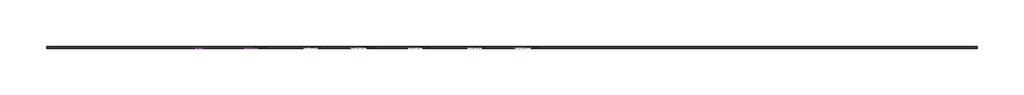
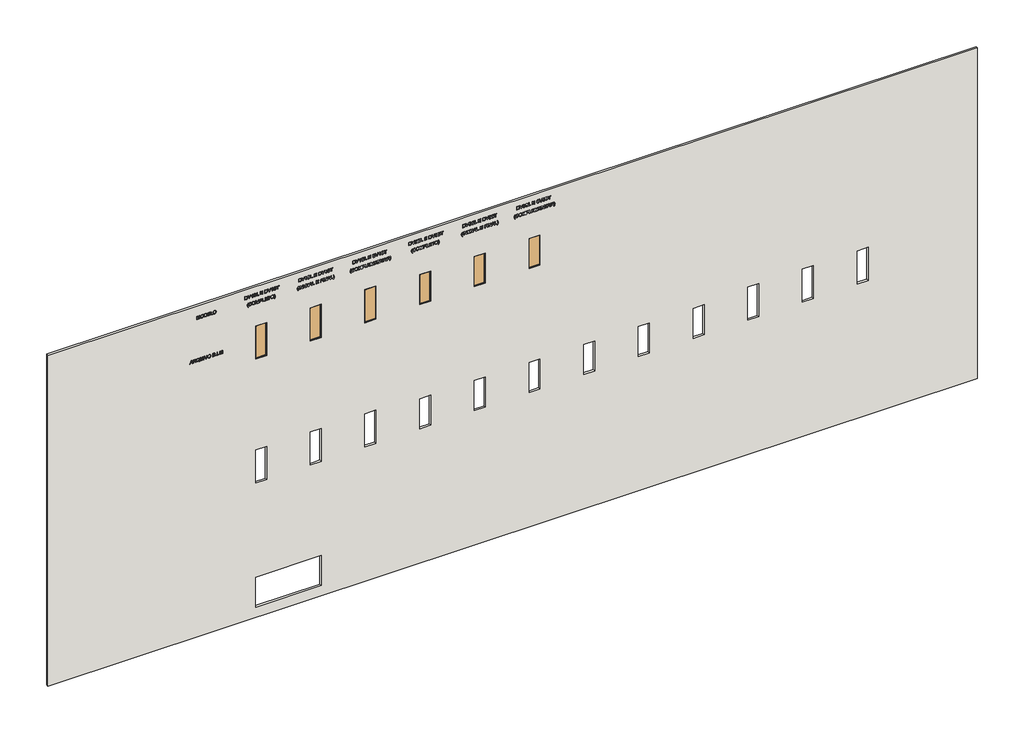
# One storey, part 1 of 4: 6 doors, 3 proxies, 1 wall.
"""IFC4 building model written with IfcOpenShell, lengths in millimetres."""

from ifc_helpers import new_model, si_unit, frame, origin, place, context, project, spatial, polyline, outline, extrude, transform, mapped, element, save
from components import door_0ff6be66, door_c2c1fa3c, door_9f8e43f1, dv8sl_8mm_laminado_6f1ccb51, dv8sl_8mm_laminado_ff16c796, dv8sl_8mm_laminado_95109997

model = new_model("IFC4")

# Units and contexts
model_context = context("Model", 3, world=origin())
ifc_project = project(units=[si_unit("LENGTHUNIT", "METRE", prefix="MILLI")], contexts=[model_context])

# Site, building, storey
site = spatial("IfcSite", under=ifc_project)
building = spatial("IfcBuilding", under=site)
storey = spatial("IfcBuildingStorey", under=building, Name="01 - Marelli - Planta Baixa - Painel Simples", Elevation=0.0)

# Proxies
placement = place(None, origin())
element("IfcBuildingElementProxy", 1, Name="300mm Arial", ObjectType="300mm Arial", at=placement, inside=storey, context=model_context, shape_type="SweptSolid", body=[
    extrude(outline(polyline([(1600.0, -7636.3146377), (1600.0, -7596.5098058), (1694.1777908, -7562.076051), (1694.1777908, -7437.9526659), (1600.0, -7403.4453347), (1600.0, -7363.6405028), (1901.3689304, -7483.9379153), (1901.3689304, -7516.0172252), (1600.0, -7636.3146377)]), holes=[polyline([(1731.8489071, -7548.243688), (1812.415064, -7518.739552), (1863.6978141, -7499.9775703), (1805.9403409, -7478.8611437), (1731.8489071, -7451.7114525), (1731.8489071, -7548.243688)])]), frame((0.0, 8778.3159498, 0.0), z_axis=(0.0, 1.0, 0.0), x_axis=(0.0, 0.0, 1.0)), (0.0, 0.0, 1.0), 10.0),
    extrude(outline(polyline([(1600.0, -7323.3942126), (1600.0, -7285.7230963), (1731.8489071, -7285.7230963), (1731.8489071, -7240.2528817), (1730.5245319, -7218.4006911), (1723.350833, -7200.484838), (1703.816299, -7180.582422), (1662.4663628, -7152.2555084), (1600.0, -7113.0392877), (1600.0, -7069.2613303), (1681.6698029, -7119.5140108), (1720.4445652, -7150.0482164), (1736.5577966, -7171.4589486), (1746.5457928, -7134.3488523), (1754.5610217, -7119.9669655), (1764.5904046, -7108.3671864), (1789.2017101, -7093.0540983), (1818.8897871, -7087.9497357), (1842.7561316, -7091.0307474), (1864.4703663, -7100.2737825), (1881.9815493, -7114.6763626), (1893.2387384, -7133.2360093), (1899.3363824, -7158.629064), (1901.3689304, -7193.5318683), (1901.3689304, -7323.3942126), (1600.0, -7323.3942126)]), holes=[polyline([(1769.5200234, -7285.7230963), (1863.6978141, -7285.7230963), (1863.6978141, -7191.9131875), (1860.4420585, -7162.1055488), (1850.6747915, -7141.5501423), (1835.8675412, -7129.6031746), (1817.4918355, -7125.620852), (1804.1837044, -7127.7085823), (1791.9240369, -7133.9717732), (1781.7888879, -7144.254075), (1774.8543123, -7158.3991377), (1770.8535956, -7177.1887106), (1769.5200234, -7201.404543), (1769.5200234, -7285.7230963)])]), frame((0.0, 8778.3159498, 0.0), z_axis=(0.0, 1.0, 0.0), x_axis=(0.0, 0.0, 1.0)), (0.0, 0.0, 1.0), 10.0),
    extrude(outline(polyline([(1636.1260119, -6795.6307023), (1659.6520655, -6777.1814202), (1686.9673037, -6764.0664271), (1718.0349382, -6756.2305406), (1752.8181808, -6753.6185784), (1794.6463636, -6757.9227978), (1831.9863862, -6770.8354558), (1863.1827793, -6791.9610794), (1886.5800742, -6820.9041954), (1901.2033836, -6855.7702114), (1906.07782, -6894.6645354), (1901.3137481, -6933.2553567), (1887.0215326, -6967.9466288), (1863.6150407, -6996.93573), (1831.5081396, -7018.4200386), (1793.055274, -7031.7189727), (1750.6108888, -7036.1519507), (1708.2032918, -7031.7097756), (1670.3022493, -7018.3832504), (1638.6460036, -6996.8161684), (1614.9727972, -6967.6523232), (1600.2115321, -6932.8322924), (1595.2911105, -6894.2966534), (1599.5585416, -6855.9449554), (1612.360835, -6821.0881364), (1591.52032, -6790.1308665), (1577.1177399, -6759.063232), (1604.7088895, -6748.9096889), (1617.5295771, -6771.2953083), (1636.1260119, -6795.6307023)]), holes=[polyline([(1686.2315397, -6883.9223811), (1657.3895912, -6893.6344658), (1650.712533, -6873.2721974), (1640.6877487, -6853.9767867), (1634.8936072, -6873.6032912), (1632.9622268, -6894.5173826), (1634.8637168, -6916.2385151), (1640.568187, -6935.9316982), (1650.0756373, -6953.5969318), (1663.3860678, -6969.2342158), (1680.251158, -6982.0296115), (1700.4225876, -6991.1691798), (1723.9003567, -6996.6529208), (1750.6844652, -6998.4808344), (1778.1859436, -6996.6322274), (1802.0499888, -6991.0864063), (1822.2766007, -6981.8433712), (1838.8657795, -6968.903122), (1851.7899338, -6953.1577726), (1861.0214726, -6935.4994369), (1866.5603959, -6915.9281147), (1868.4067037, -6894.4438062), (1864.7554749, -6865.9605427), (1853.8017885, -6840.4019411), (1836.2354232, -6819.2027411), (1812.7461578, -6803.7976826), (1784.0605592, -6794.4166917), (1750.9051944, -6791.2896947), (1721.7321522, -6793.5015852), (1696.4586591, -6800.1372567), (1675.0847152, -6811.1967092), (1657.6103204, -6826.6799427), (1674.2569807, -6852.2477413), (1686.2315397, -6883.9223811)])]), frame((0.0, 8778.3159498, 0.0), z_axis=(0.0, 1.0, 0.0), x_axis=(0.0, 0.0, 1.0)), (0.0, 0.0, 1.0), 10.0),
    extrude(outline(polyline([(1901.3689304, -6499.3385434), (1728.8322747, -6499.3385434), (1681.6698029, -6504.1026152), (1664.9311721, -6510.057705), (1652.7542781, -6518.3948307), (1644.0952556, -6529.5278596), (1637.9102396, -6543.8706589), (1632.9622268, -6582.1855687), (1635.4638243, -6606.3554158), (1642.968617, -6626.4785609), (1655.0811317, -6641.9112106), (1671.4058953, -6652.0095714), (1694.9779341, -6657.5829836), (1728.8322747, -6659.4407877), (1901.3689304, -6659.4407877), (1901.3689304, -6697.111904), (1727.5078995, -6697.111904), (1684.7324205, -6694.2516215), (1652.0553023, -6685.6707739), (1627.6923172, -6670.4036711), (1609.8592375, -6647.4846228), (1598.9331422, -6616.904432), (1595.2911105, -6578.6539015), (1599.4757682, -6539.5480454), (1612.0297412, -6508.7563224), (1631.2515755, -6486.2235502), (1655.4398167, -6471.8945465), (1686.7925597, -6464.2242069), (1727.5078995, -6461.6674271), (1901.3689304, -6461.6674271), (1901.3689304, -6499.3385434)])), frame((0.0, 8778.3159498, 0.0), z_axis=(0.0, 1.0, 0.0), x_axis=(0.0, 0.0, 1.0)), (0.0, 0.0, 1.0), 10.0),
    extrude(outline(polyline([(-6353.3629677, 8778.3159498), (-6391.034084, 8778.3159498), (-6391.034084, 8788.3159498), (-6353.3629677, 8788.3159498), (-6353.3629677, 8778.3159498)])), frame((0.0, 0.0, 1600.0), z_axis=(0.0, 0.0, 1.0), x_axis=(1.0, 0.0, 0.0)), (0.0, 0.0, 1.0), 301.3689304),
    extrude(outline(polyline([(1600.0, -6188.9932922), (1600.0, -6150.0713771), (1901.3689304, -6035.2186183), (1901.3689304, -6075.5384849), (1684.2449769, -6156.0310655), (1635.3166715, -6172.0707205), (1684.2449769, -6188.3311046), (1901.3689304, -6268.602956), (1901.3689304, -6308.9228227), (1600.0, -6188.9932922)])), frame((0.0, 8778.3159498, 0.0), z_axis=(0.0, 1.0, 0.0), x_axis=(0.0, 0.0, 1.0)), (0.0, 0.0, 1.0), 10.0),
    extrude(outline(polyline([(1746.7113397, -6014.3229209), (1708.1665036, -6010.0187016), (1671.7002009, -5997.1060436), (1640.007167, -5975.8424642), (1615.7821376, -5946.485481), (1600.4138672, -5910.8377157), (1595.2911105, -5870.70179), (1599.9264236, -5832.892718), (1613.832363, -5797.7507904), (1636.7514113, -5767.7868019), (1668.4260511, -5745.5115471), (1706.8881137, -5731.6883811), (1750.1694304, -5727.0806591), (1792.8805301, -5731.4584548), (1830.8091638, -5744.5918421), (1862.4286213, -5766.0761506), (1886.2121922, -5795.5067102), (1901.1114131, -5830.9521404), (1906.07782, -5870.4810608), (1903.4336681, -5900.7715446), (1895.5012126, -5928.1465636), (1882.2804534, -5952.6061177), (1863.7713905, -5974.1502071), (1840.5902263, -5991.7257694), (1813.3531631, -6004.2797425), (1782.0602009, -6011.8121263), (1746.7113397, -6014.3229209)]), holes=[polyline([(1746.3434577, -5976.6518046), (1776.8799625, -5974.6882345), (1802.7121764, -5968.797524), (1823.8400992, -5958.9796733), (1840.263731, -5945.2346822), (1852.5762816, -5928.7673644), (1861.3709605, -5910.7825334), (1866.6477679, -5891.2801891), (1868.4067037, -5870.2603316), (1864.7554749, -5841.0964864), (1853.8017885, -5814.9676677), (1836.2078321, -5793.3086153), (1812.6357932, -5777.5540688), (1783.8122389, -5767.9523488), (1750.463736, -5764.7517754), (1723.9256486, -5766.6210758), (1700.5973316, -5772.228977), (1680.478785, -5781.5754789), (1663.5700088, -5794.6605816), (1650.1791041, -5810.642755), (1640.6141723, -5828.6804691), (1634.8752131, -5848.7737238), (1632.9622268, -5870.9225192), (1634.856819, -5892.6988341), (1640.5405959, -5912.557564), (1650.0135572, -5930.4987091), (1663.2757032, -5946.5222692), (1679.8349915, -5959.703941), (1699.19938, -5969.1194208), (1721.3688687, -5974.7687087), (1746.3434577, -5976.6518046)])]), frame((0.0, 8778.3159498, 0.0), z_axis=(0.0, 1.0, 0.0), x_axis=(0.0, 0.0, 1.0)), (0.0, 0.0, 1.0), 10.0),
    extrude(outline(polyline([(1600.0, -5557.5606357), (1600.0, -5443.4436408), (1605.1871361, -5395.1407348), (1611.6066769, -5377.10532), (1620.4910271, -5362.3624491), (1632.7598917, -5350.3235108), (1649.3329756, -5340.399894), (1668.8215242, -5333.7504269), (1689.8367832, -5331.5339379), (1715.055094, -5334.7804965), (1736.7049494, -5344.5201723), (1753.6643094, -5360.2931129), (1764.8111338, -5381.6394656), (1776.5557665, -5363.7695977), (1791.4825785, -5351.0684718), (1808.543106, -5343.4809057), (1826.6888854, -5340.951717), (1846.4073604, -5343.9591523), (1865.2429185, -5352.9814582), (1881.2549824, -5367.3104619), (1892.5029744, -5386.2379906), (1899.1524414, -5410.9320695), (1901.3689304, -5442.560724), (1901.3689304, -5557.5606357), (1600.0, -5557.5606357)]), holes=[polyline([(1778.9378025, -5519.8895194), (1863.6978141, -5519.8895194), (1863.6978141, -5456.3195106), (1859.7614768, -5407.9062401), (1854.1604734, -5395.4166463), (1845.230138, -5386.2012024), (1833.7890079, -5380.5174255), (1820.6556207, -5378.6228333), (1807.1267603, -5380.6553813), (1796.1178916, -5386.7530254), (1787.7577733, -5396.8605832), (1782.175164, -5410.9228724), (1778.9378025, -5451.0955863), (1778.9378025, -5519.8895194)]), polyline([(1637.6711163, -5519.8895194), (1741.2666861, -5519.8895194), (1741.2666861, -5446.3131204), (1740.0066903, -5419.4853259), (1736.2267028, -5399.776048), (1729.3381125, -5385.8609115), (1718.752308, -5376.4155413), (1705.2142506, -5371.007676), (1689.4689012, -5369.2050542), (1675.9124497, -5370.7409615), (1664.0850436, -5375.3486835), (1647.3464128, -5391.0204565), (1639.1426443, -5414.6752688), (1637.6711163, -5442.6343004), (1637.6711163, -5519.8895194)])]), frame((0.0, 8778.3159498, 0.0), z_axis=(0.0, 1.0, 0.0), x_axis=(0.0, 0.0, 1.0)), (0.0, 0.0, 1.0), 10.0),
    extrude(outline(polyline([(-5237.3561471, 8778.3159498), (-5275.0272634, 8778.3159498), (-5275.0272634, 8788.3159498), (-5237.3561471, 8788.3159498), (-5237.3561471, 8778.3159498)])), frame((0.0, 0.0, 1600.0), z_axis=(0.0, 0.0, 1.0), x_axis=(1.0, 0.0, 0.0)), (0.0, 0.0, 1.0), 37.6711163),
    extrude(outline(polyline([(-5119.6339087, 8778.3159498), (-5157.305025, 8778.3159498), (-5157.305025, 8788.3159498), (-5119.6339087, 8788.3159498), (-5119.6339087, 8778.3159498)])), frame((0.0, 0.0, 1600.0), z_axis=(0.0, 0.0, 1.0), x_axis=(1.0, 0.0, 0.0)), (0.0, 0.0, 1.0), 301.3689304),
    extrude(outline(polyline([(-5001.9116702, 8778.3159498), (-5039.5827865, 8778.3159498), (-5039.5827865, 8788.3159498), (-5001.9116702, 8788.3159498), (-5001.9116702, 8778.3159498)])), frame((0.0, 0.0, 1600.0), z_axis=(0.0, 0.0, 1.0), x_axis=(1.0, 0.0, 0.0)), (0.0, 0.0, 1.0), 37.6711163),
    extrude(outline(polyline([(1600.0, -4926.5694376), (1600.0, -4888.8983213), (1863.6978141, -4888.8983213), (1600.0, -4813.1882067), (1600.0, -4762.1261857), (1863.6978141, -4686.4160711), (1600.0, -4686.4160711), (1600.0, -4648.7449548), (1901.3689304, -4648.7449548), (1901.3689304, -4713.5657624), (1692.6326864, -4774.1927152), (1644.5872978, -4787.6571962), (1688.9538664, -4800.0916076), (1901.3689304, -4861.74863), (1901.3689304, -4926.5694376), (1600.0, -4926.5694376)])), frame((0.0, 8778.3159498, 0.0), z_axis=(0.0, 1.0, 0.0), x_axis=(0.0, 0.0, 1.0)), (0.0, 0.0, 1.0), 10.0),
])
element("IfcBuildingElementProxy", 2, Name="300mm Arial", ObjectType="300mm Arial", at=placement, inside=storey, context=model_context, shape_type="SweptSolid", body=[
    extrude(outline(polyline([(5700.0, -6993.7719449), (5700.0, -6956.1008286), (5963.6978141, -6956.1008286), (5700.0, -6880.390714), (5700.0, -6829.328693), (5963.6978141, -6753.6185784), (5700.0, -6753.6185784), (5700.0, -6715.9474621), (6001.3689304, -6715.9474621), (6001.3689304, -6780.7682697), (5792.6326864, -6841.3952225), (5744.5872978, -6854.8597035), (5788.9538664, -6867.2941149), (6001.3689304, -6928.9511373), (6001.3689304, -6993.7719449), (5700.0, -6993.7719449)])), frame((0.0, 8778.3159498, 0.0), z_axis=(0.0, 1.0, 0.0), x_axis=(0.0, 0.0, 1.0)), (0.0, 0.0, 1.0), 10.0),
    extrude(outline(polyline([(5846.7113397, -6664.1496772), (5808.1665036, -6659.8454579), (5771.7002009, -6646.9327998), (5740.007167, -6625.6692205), (5715.7821376, -6596.3122373), (5700.4138672, -6560.664472), (5695.2911105, -6520.5285463), (5699.9264236, -6482.7194742), (5713.832363, -6447.5775466), (5736.7514113, -6417.6135581), (5768.4260511, -6395.3383033), (5806.8881137, -6381.5151374), (5850.1694304, -6376.9074154), (5892.8805301, -6381.2852111), (5930.8091638, -6394.4185983), (5962.4286213, -6415.9029069), (5986.2121922, -6445.3334665), (6001.1114131, -6480.7788967), (6006.07782, -6520.3078171), (6003.4336681, -6550.5983009), (5995.5012126, -6577.9733198), (5982.2804534, -6602.432874), (5963.7713905, -6623.9769633), (5940.5902263, -6641.5525257), (5913.3531631, -6654.1064987), (5882.0602009, -6661.6388826), (5846.7113397, -6664.1496772)]), holes=[polyline([(5846.3434577, -6626.4785609), (5876.8799625, -6624.5149908), (5902.7121764, -6618.6242803), (5923.8400992, -6608.8064296), (5940.263731, -6595.0614385), (5952.5762816, -6578.5941207), (5961.3709605, -6560.6092897), (5966.6477679, -6541.1069454), (5968.4067037, -6520.0870879), (5964.7554749, -6490.9232427), (5953.8017885, -6464.794424), (5936.2078321, -6443.1353716), (5912.6357932, -6427.3808251), (5883.8122389, -6417.779105), (5850.463736, -6414.5785317), (5823.9256486, -6416.4478321), (5800.5973316, -6422.0557332), (5780.478785, -6431.4022352), (5763.5700088, -6444.4873379), (5750.1791041, -6460.4695113), (5740.6141723, -6478.5072254), (5734.8752131, -6498.6004801), (5732.9622268, -6520.7492755), (5734.856819, -6542.5255903), (5740.5405959, -6562.3843203), (5750.0135572, -6580.3254653), (5763.2757032, -6596.3490255), (5779.8349915, -6609.5306972), (5799.19938, -6618.9461771), (5821.3688687, -6624.5954649), (5846.3434577, -6626.4785609)])]), frame((0.0, 8778.3159498, 0.0), z_axis=(0.0, 1.0, 0.0), x_axis=(0.0, 0.0, 1.0)), (0.0, 0.0, 1.0), 10.0),
    extrude(outline(polyline([(5700.0, -6325.1096305), (5700.0, -6216.1429835), (5705.1503479, -6167.6929247), (5711.5055094, -6148.1491937), (5720.2702979, -6131.6772774), (5732.088507, -6117.3298796), (5747.6039302, -6104.1597042), (5767.2580258, -6092.7185741), (5791.4922522, -6083.5583124), (5819.9571216, -6077.5434418), (5852.303146, -6075.5384849), (5890.3789325, -6078.499935), (5923.9665587, -6087.3842852), (5952.5142015, -6102.2283237), (5975.470038, -6123.0688387), (5988.6586075, -6143.3391366), (5997.0279229, -6167.3618309), (6001.3689304, -6221.1461786), (6001.3689304, -6325.1096305), (5700.0, -6325.1096305)]), holes=[polyline([(5737.6711163, -6287.4385141), (5963.6978141, -6287.4385141), (5963.6978141, -6221.8083662), (5962.189498, -6190.06015), (5957.6645494, -6168.3919005), (5945.0829852, -6147.10073), (5924.2608643, -6129.2860444), (5893.9473879, -6117.228712), (5852.8917572, -6113.2096012), (5821.9068962, -6115.2605434), (5795.9068361, -6121.4133697), (5774.7996067, -6131.245016), (5758.4932372, -6144.332418), (5749.6824634, -6156.5093121), (5743.1157698, -6172.2914497), (5739.0322797, -6193.2055411), (5737.6711163, -6220.7782966), (5737.6711163, -6287.4385141)])]), frame((0.0, 8778.3159498, 0.0), z_axis=(0.0, 1.0, 0.0), x_axis=(0.0, 0.0, 1.0)), (0.0, 0.0, 1.0), 10.0),
    extrude(outline(polyline([(5700.0, -6023.7407), (5700.0, -5802.4228917), (5737.6711163, -5802.4228917), (5737.6711163, -5986.0695837), (5836.5577966, -5986.0695837), (5836.5577966, -5816.5495603), (5874.2289129, -5816.5495603), (5874.2289129, -5986.0695837), (5963.6978141, -5986.0695837), (5963.6978141, -5807.1317812), (6001.3689304, -5807.1317812), (6001.3689304, -6023.7407), (5700.0, -6023.7407)])), frame((0.0, 8778.3159498, 0.0), z_axis=(0.0, 1.0, 0.0), x_axis=(0.0, 0.0, 1.0)), (0.0, 0.0, 1.0), 10.0),
    extrude(outline(polyline([(5700.0, -5745.9162172), (5700.0, -5557.5606357), (5737.6711163, -5557.5606357), (5737.6711163, -5708.2451009), (6001.3689304, -5708.2451009), (6001.3689304, -5745.9162172), (5700.0, -5745.9162172)])), frame((0.0, 8778.3159498, 0.0), z_axis=(0.0, 1.0, 0.0), x_axis=(0.0, 0.0, 1.0)), (0.0, 0.0, 1.0), 10.0),
    extrude(outline(polyline([(5846.7113397, -5529.3072985), (5808.1665036, -5525.0030791), (5771.7002009, -5512.0904211), (5740.007167, -5490.8268418), (5715.7821376, -5461.4698586), (5700.4138672, -5425.8220932), (5695.2911105, -5385.6861676), (5699.9264236, -5347.8770955), (5713.832363, -5312.7351679), (5736.7514113, -5282.7711794), (5768.4260511, -5260.4959246), (5806.8881137, -5246.6727586), (5850.1694304, -5242.0650367), (5892.8805301, -5246.4428324), (5930.8091638, -5259.5762196), (5962.4286213, -5281.0605281), (5986.2121922, -5310.4910878), (6001.1114131, -5345.936518), (6006.07782, -5385.4654384), (6003.4336681, -5415.7559222), (5995.5012126, -5443.1309411), (5982.2804534, -5467.5904953), (5963.7713905, -5489.1345846), (5940.5902263, -5506.7101469), (5913.3531631, -5519.26412), (5882.0602009, -5526.7965039), (5846.7113397, -5529.3072985)]), holes=[polyline([(5846.3434577, -5491.6361822), (5876.8799625, -5489.672612), (5902.7121764, -5483.7819016), (5923.8400992, -5473.9640508), (5940.263731, -5460.2190598), (5952.5762816, -5443.751742), (5961.3709605, -5425.7669109), (5966.6477679, -5406.2645667), (5968.4067037, -5385.2447092), (5964.7554749, -5356.080864), (5953.8017885, -5329.9520453), (5936.2078321, -5308.2929928), (5912.6357932, -5292.5384464), (5883.8122389, -5282.9367263), (5850.463736, -5279.736153), (5823.9256486, -5281.6054533), (5800.5973316, -5287.2133545), (5780.478785, -5296.5598565), (5763.5700088, -5309.6449592), (5750.1791041, -5325.6271326), (5740.6141723, -5343.6648467), (5734.8752131, -5363.7581014), (5732.9622268, -5385.9068968), (5734.856819, -5407.6832116), (5740.5405959, -5427.5419416), (5750.0135572, -5445.4830866), (5763.2757032, -5461.5066468), (5779.8349915, -5474.6883185), (5799.19938, -5484.1037983), (5821.3688687, -5489.7530862), (5846.3434577, -5491.6361822)])]), frame((0.0, 8778.3159498, 0.0), z_axis=(0.0, 1.0, 0.0), x_axis=(0.0, 0.0, 1.0)), (0.0, 0.0, 1.0), 10.0),
])
element("IfcBuildingElementProxy", 3, Name="300mm Arial", ObjectType="300mm Arial", at=placement, inside=storey, context=model_context, shape_type="SweptSolid", body=[
    extrude(outline(polyline([(6065.9244535, -2620.0542535), (6065.9244535, -2511.0876065), (6071.0748015, -2462.6375477), (6077.4299629, -2443.0938167), (6086.1947515, -2426.6219004), (6098.0129606, -2412.2745026), (6113.5283837, -2399.1043272), (6133.1824793, -2387.6631971), (6157.4167057, -2378.5029354), (6185.8815751, -2372.4880648), (6218.2275995, -2370.4831079), (6256.303386, -2373.444558), (6289.8910122, -2382.3289082), (6318.438655, -2397.1729467), (6341.3944915, -2418.0134617), (6354.5830611, -2438.2837597), (6362.9523764, -2462.3064539), (6367.293384, -2516.0908016), (6367.293384, -2620.0542535), (6065.9244535, -2620.0542535)]), holes=[polyline([(6103.5955698, -2582.3831372), (6329.6222677, -2582.3831372), (6329.6222677, -2516.7529892), (6328.1139515, -2485.004773), (6323.589003, -2463.3365235), (6311.0074387, -2442.0453531), (6290.1853178, -2424.2306674), (6259.8718414, -2412.1733351), (6218.8162107, -2408.1542243), (6187.8313497, -2410.2051664), (6161.8312897, -2416.3579927), (6140.7240602, -2426.1896391), (6124.4176908, -2439.277041), (6115.606917, -2451.4539351), (6109.0402234, -2467.2360727), (6104.9567332, -2488.1501641), (6103.5955698, -2515.7229196), (6103.5955698, -2582.3831372)])]), frame((0.0, 8778.3159498, 0.0), z_axis=(0.0, 1.0, 0.0), x_axis=(0.0, 0.0, 1.0)), (0.0, 0.0, 1.0), 10.0),
    extrude(outline(polyline([(6065.9244535, -2229.6578802), (6065.9244535, -2190.7359651), (6367.293384, -2075.8832062), (6367.293384, -2116.2030729), (6150.1694304, -2196.6956534), (6101.2411251, -2212.7353084), (6150.1694304, -2228.9956926), (6367.293384, -2309.267544), (6367.293384, -2349.5874106), (6065.9244535, -2229.6578802)])), frame((0.0, 8778.3159498, 0.0), z_axis=(0.0, 1.0, 0.0), x_axis=(0.0, 0.0, 1.0)), (0.0, 0.0, 1.0), 10.0),
    extrude(outline(polyline([(6065.9244535, -1913.7208227), (6367.293384, -1913.7208227), (6367.293384, -1938.0010344), (6347.5565149, -1951.3091656), (6327.1942465, -1971.5150842), (6308.0459887, -1997.1472622), (6291.9511514, -2026.7341717), (6256.3401742, -2026.7341717), (6275.3596734, -1987.0764926), (6300.7803193, -1951.391939), (6065.9244535, -1951.391939), (6065.9244535, -1913.7208227)])), frame((0.0, 8778.3159498, 0.0), z_axis=(0.0, 1.0, 0.0), x_axis=(0.0, 0.0, 1.0)), (0.0, 0.0, 1.0), 10.0),
    extrude(outline(polyline([(6169.5200234, -1824.2519215), (6139.0961824, -1819.7821553), (6111.9832793, -1807.9915373), (6089.7264186, -1789.6250287), (6073.8707046, -1765.4275905), (6064.3793492, -1735.0497347), (6061.215564, -1698.1419736), (6064.1494229, -1668.0768175), (6072.9509996, -1641.1570525), (6087.0408801, -1618.7714331), (6105.83965, -1602.3087138), (6127.6826435, -1592.1827619), (6150.9051944, -1588.8074446), (6173.6219076, -1591.7413035), (6193.5059295, -1600.5428802), (6210.3733189, -1615.5248745), (6224.0401351, -1636.999986), (6232.8509088, -1662.1263262), (6242.9492696, -1703.6602035), (6253.5810593, -1743.9064938), (6263.9921197, -1765.1700731), (6275.6355849, -1774.1647879), (6290.1117414, -1777.1630261), (6307.0894955, -1772.9323832), (6321.381711, -1760.2404543), (6331.0937957, -1738.2962933), (6334.3311572, -1706.3089539), (6331.0570075, -1675.0573784), (6321.2345582, -1652.5246062), (6305.0109622, -1638.103632), (6282.5333723, -1631.1874504), (6282.5333723, -1593.5163341), (6307.4941657, -1597.7653712), (6329.6958441, -1608.4523431), (6347.9979733, -1625.3381267), (6361.2601193, -1648.1835986), (6369.316735, -1675.9954775), (6372.0022735, -1707.7804818), (6369.4362966, -1737.119071), (6361.7383659, -1763.6249687), (6349.0832252, -1785.7070855), (6331.6456187, -1801.7743316), (6311.0718181, -1811.5691897), (6289.0080954, -1814.8341424), (6269.2712264, -1812.1945891), (6251.5577083, -1804.2759292), (6236.198635, -1790.9861921), (6223.5251003, -1772.2334074), (6214.4660061, -1749.1947974), (6204.9470595, -1713.1883472), (6190.5628735, -1658.3371417), (6182.7545782, -1642.2606985), (6173.4563607, -1632.7325548), (6162.5578566, -1628.0420594), (6149.9487012, -1626.4785609), (6137.0084521, -1628.5662912), (6124.6752082, -1634.8294822), (6113.9330539, -1645.3601043), (6105.7660736, -1660.2501281), (6100.6065286, -1678.6258337), (6098.8866803, -1699.6135015), (6101.1583516, -1723.4522548), (6107.9733656, -1744.7894106), (6118.4763965, -1762.2454112), (6131.8121189, -1774.4406994), (6148.615129, -1782.2581918), (6169.5200234, -1786.5808052), (6169.5200234, -1824.2519215)])), frame((0.0, 8778.3159498, 0.0), z_axis=(0.0, 1.0, 0.0), x_axis=(0.0, 0.0, 1.0)), (0.0, 0.0, 1.0), 10.0),
    extrude(outline(polyline([(6065.9244535, -1532.3007701), (6065.9244535, -1343.9451886), (6103.5955698, -1343.9451886), (6103.5955698, -1494.6296538), (6367.293384, -1494.6296538), (6367.293384, -1532.3007701), (6065.9244535, -1532.3007701)])), frame((0.0, 8778.3159498, 0.0), z_axis=(0.0, 1.0, 0.0), x_axis=(0.0, 0.0, 1.0)), (0.0, 0.0, 1.0), 10.0),
    extrude(outline(polyline([(6065.9244535, -1183.8429443), (6065.9244535, -962.525136), (6103.5955698, -962.525136), (6103.5955698, -1146.171828), (6202.4822501, -1146.171828), (6202.4822501, -976.6518046), (6240.1533665, -976.6518046), (6240.1533665, -1146.171828), (6329.6222677, -1146.171828), (6329.6222677, -967.2340255), (6367.293384, -967.2340255), (6367.293384, -1183.8429443), (6065.9244535, -1183.8429443)])), frame((0.0, 8778.3159498, 0.0), z_axis=(0.0, 1.0, 0.0), x_axis=(0.0, 0.0, 1.0)), (0.0, 0.0, 1.0), 10.0),
    extrude(outline(polyline([(6065.9244535, -788.2962231), (6065.9244535, -679.3295761), (6071.0748015, -630.8795174), (6077.4299629, -611.3357864), (6086.1947515, -594.86387), (6098.0129606, -580.5164722), (6113.5283837, -567.3462968), (6133.1824793, -555.9051667), (6157.4167057, -546.7449051), (6185.8815751, -540.7300344), (6218.2275995, -538.7250776), (6256.303386, -541.6865276), (6289.8910122, -550.5708778), (6318.438655, -565.4149163), (6341.3944915, -586.2554313), (6354.5830611, -606.5257293), (6362.9523764, -630.5484236), (6367.293384, -684.3327713), (6367.293384, -788.2962231), (6065.9244535, -788.2962231)]), holes=[polyline([(6103.5955698, -750.6251068), (6329.6222677, -750.6251068), (6329.6222677, -684.9949588), (6328.1139515, -653.2467427), (6323.589003, -631.5784931), (6311.0074387, -610.2873227), (6290.1853178, -592.4726371), (6259.8718414, -580.4153047), (6218.8162107, -576.3961939), (6187.8313497, -578.447136), (6161.8312897, -584.5999624), (6140.7240602, -594.4316087), (6124.4176908, -607.5190107), (6115.606917, -619.6959047), (6109.0402234, -635.4780423), (6104.9567332, -656.3921337), (6103.5955698, -683.9648893), (6103.5955698, -750.6251068)])]), frame((0.0, 8778.3159498, 0.0), z_axis=(0.0, 1.0, 0.0), x_axis=(0.0, 0.0, 1.0)), (0.0, 0.0, 1.0), 10.0),
    extrude(outline(polyline([(6065.9244535, -397.8998498), (6065.9244535, -358.9779347), (6367.293384, -244.1251758), (6367.293384, -284.4450425), (6150.1694304, -364.937623), (6101.2411251, -380.977278), (6150.1694304, -397.2376622), (6367.293384, -477.5095136), (6367.293384, -517.8293802), (6065.9244535, -397.8998498)])), frame((0.0, 8778.3159498, 0.0), z_axis=(0.0, 1.0, 0.0), x_axis=(0.0, 0.0, 1.0)), (0.0, 0.0, 1.0), 10.0),
    extrude(outline(polyline([(6065.9244535, -81.9627924), (6367.293384, -81.9627924), (6367.293384, -106.243004), (6347.5565149, -119.5511352), (6327.1942465, -139.7570538), (6308.0459887, -165.3892318), (6291.9511514, -194.9761413), (6256.3401742, -194.9761413), (6275.3596734, -155.3184622), (6300.7803193, -119.6339087), (6065.9244535, -119.6339087), (6065.9244535, -81.9627924)])), frame((0.0, 8778.3159498, 0.0), z_axis=(0.0, 1.0, 0.0), x_axis=(0.0, 0.0, 1.0)), (0.0, 0.0, 1.0), 10.0),
    extrude(outline(polyline([(6169.5200234, 7.5061089), (6139.0961824, 11.9758751), (6111.9832793, 23.7664931), (6089.7264186, 42.1330017), (6073.8707046, 66.3304399), (6064.3793492, 96.7082957), (6061.215564, 133.6160568), (6064.1494229, 163.6812129), (6072.9509996, 190.6009779), (6087.0408801, 212.9865973), (6105.83965, 229.4493166), (6127.6826435, 239.5752685), (6150.9051944, 242.9505858), (6173.6219076, 240.0167269), (6193.5059295, 231.2151501), (6210.3733189, 216.2331559), (6224.0401351, 194.7580444), (6232.8509088, 169.6317041), (6242.9492696, 128.0978269), (6253.5810593, 87.8515366), (6263.9921197, 66.5879573), (6275.6355849, 57.5932425), (6290.1117414, 54.5950043), (6307.0894955, 58.8256472), (6321.381711, 71.517576), (6331.0937957, 93.461737), (6334.3311572, 125.4490765), (6331.0570075, 156.700652), (6321.2345582, 179.2334242), (6305.0109622, 193.6543984), (6282.5333723, 200.5705799), (6282.5333723, 238.2416962), (6307.4941657, 233.9926592), (6329.6958441, 223.3056872), (6347.9979733, 206.4199037), (6361.2601193, 183.5744318), (6369.316735, 155.7625529), (6372.0022735, 123.9775485), (6369.4362966, 94.6389594), (6361.7383659, 68.1330617), (6349.0832252, 46.0509449), (6331.6456187, 29.9836988), (6311.0718181, 20.1888407), (6289.0080954, 16.923888), (6269.2712264, 19.5634413), (6251.5577083, 27.4821012), (6236.198635, 40.7718383), (6223.5251003, 59.524623), (6214.4660061, 82.5632329), (6204.9470595, 118.5696832), (6190.5628735, 173.4208887), (6182.7545782, 189.4973319), (6173.4563607, 199.0254756), (6162.5578566, 203.715971), (6149.9487012, 205.2794695), (6137.0084521, 203.1917392), (6124.6752082, 196.9285482), (6113.9330539, 186.3979261), (6105.7660736, 171.5079023), (6100.6065286, 153.1321967), (6098.8866803, 132.1445288), (6101.1583516, 108.3057756), (6107.9733656, 86.9686198), (6118.4763965, 69.5126192), (6131.8121189, 57.317331), (6148.615129, 49.4998386), (6169.5200234, 45.1772252), (6169.5200234, 7.5061089)])), frame((0.0, 8778.3159498, 0.0), z_axis=(0.0, 1.0, 0.0), x_axis=(0.0, 0.0, 1.0)), (0.0, 0.0, 1.0), 10.0),
    extrude(outline(polyline([(6065.9244535, 374.7994929), (6065.9244535, 412.4706092), (6329.6222677, 412.4706092), (6329.6222677, 511.3572895), (6367.293384, 511.3572895), (6367.293384, 275.9128126), (6329.6222677, 275.9128126), (6329.6222677, 374.7994929), (6065.9244535, 374.7994929)])), frame((0.0, 8778.3159498, 0.0), z_axis=(0.0, 1.0, 0.0), x_axis=(0.0, 0.0, 1.0)), (0.0, 0.0, 1.0), 10.0),
    extrude(outline(polyline([(5249.3155348, -2313.9764335), (5249.3155348, -2285.7230963), (5297.5540614, -2314.5650447), (5345.8109821, -2335.1664364), (5394.0862969, -2347.5272714), (5442.3800058, -2351.6475498), (5480.2534572, -2349.2747109), (5517.9429677, -2342.1561943), (5575.7740173, -2320.9661914), (5635.4444769, -2285.7230963), (5635.4444769, -2313.9764335), (5584.934279, -2348.6677056), (5534.2033518, -2372.9847055), (5489.4137189, -2385.235176), (5442.600735, -2389.3186661), (5389.2210575, -2383.8556185), (5337.68079, -2367.4664756), (5290.2791949, -2343.1678698), (5249.3155348, -2313.9764335)])), frame((0.0, 8778.3159498, 0.0), z_axis=(0.0, 1.0, 0.0), x_axis=(0.0, 0.0, 1.0)), (0.0, 0.0, 1.0), 10.0),
    extrude(outline(polyline([(5441.2027835, -2031.4430612), (5408.9395325, -2043.6291523), (5385.7261786, -2063.4120066), (5371.7098746, -2089.6144017), (5367.0377732, -2121.0591152), (5370.4682728, -2148.0340625), (5380.7597717, -2173.0408411), (5397.9858461, -2193.8997503), (5422.2200725, -2208.4310891), (5452.3128197, -2216.9567543), (5487.1144565, -2219.7986427), (5515.5333406, -2217.3982127), (5543.1060961, -2210.1969227), (5567.4966724, -2197.0727325), (5586.3690188, -2176.9036021), (5598.4539423, -2150.3241279), (5602.4822501, -2117.9689065), (5598.8494154, -2089.8995102), (5587.9509113, -2067.0540383), (5569.1061561, -2049.2117616), (5541.6345681, -2036.1519507), (5550.6108888, -1998.4808344), (5588.4291579, -2015.1182977), (5603.751443, -2026.9204119), (5616.6824952, -2041.0447813), (5626.9510013, -2057.2246913), (5634.2856486, -2075.1934275), (5640.1533665, -2116.4973785), (5635.6192209, -2154.3524358), (5622.0167841, -2188.8965551), (5599.6771499, -2218.0236121), (5568.9314122, -2239.6274823), (5530.9843844, -2253.0091898), (5487.0408801, -2257.469759), (5445.3782441, -2253.5242246), (5406.4747231, -2241.6876214), (5373.3837376, -2222.3002403), (5349.1587083, -2195.702372), (5334.3146698, -2161.0019028), (5329.3666569, -2117.3067189), (5331.0014325, -2094.8843113), (5335.9057594, -2074.2645254), (5344.0796375, -2055.4473614), (5355.5230668, -2038.4328191), (5370.0796975, -2023.5565909), (5387.5931797, -2011.1543692), (5408.0635135, -2001.2261538), (5431.4906988, -1993.7719449), (5441.2027835, -2031.4430612)])), frame((0.0, 8778.3159498, 0.0), z_axis=(0.0, 1.0, 0.0), x_axis=(0.0, 0.0, 1.0)), (0.0, 0.0, 1.0), 10.0),
    extrude(outline(polyline([(5480.7868861, -1956.1008286), (5442.2420501, -1951.7966092), (5405.7757473, -1938.8839512), (5374.0827134, -1917.6203719), (5349.8576841, -1888.2633887), (5334.4894137, -1852.6156233), (5329.3666569, -1812.4796977), (5334.0019701, -1774.6706256), (5347.9079095, -1739.528698), (5370.8269578, -1709.5647095), (5402.5015976, -1687.2894547), (5440.9636602, -1673.4662887), (5484.2449769, -1668.8585667), (5526.9560765, -1673.2363625), (5564.8847102, -1686.3697497), (5596.5041677, -1707.8540582), (5620.2877387, -1737.2846179), (5635.1869595, -1772.7300481), (5640.1533665, -1812.2589685), (5637.5092146, -1842.5494522), (5629.5767591, -1869.9244712), (5616.3559999, -1894.3840254), (5597.846937, -1915.9281147), (5574.6657728, -1933.503677), (5547.4287096, -1946.0576501), (5516.1357474, -1953.590034), (5480.7868861, -1956.1008286)]), holes=[polyline([(5480.4190041, -1918.4297123), (5510.955509, -1916.4661421), (5536.7877229, -1910.5754317), (5557.9156457, -1900.7575809), (5574.3392775, -1887.0125899), (5586.651828, -1870.5452721), (5595.446507, -1852.560441), (5600.7233144, -1833.0580968), (5602.4822501, -1812.0382393), (5598.8310213, -1782.8743941), (5587.8773349, -1756.7455754), (5570.2833785, -1735.0865229), (5546.7113397, -1719.3319765), (5517.8877854, -1709.7302564), (5484.5392825, -1706.5296831), (5458.0011951, -1708.3989834), (5434.672878, -1714.0068846), (5414.5543314, -1723.3533865), (5397.6455552, -1736.4384893), (5384.2546506, -1752.4206627), (5374.6897187, -1770.4583768), (5368.9507596, -1790.5516315), (5367.0377732, -1812.7004269), (5368.9323655, -1834.4767417), (5374.6161423, -1854.3354717), (5384.0891037, -1872.2766167), (5397.3512496, -1888.3001769), (5413.9105379, -1901.4818486), (5433.2749265, -1910.8973284), (5455.4444152, -1916.5466163), (5480.4190041, -1918.4297123)])]), frame((0.0, 8778.3159498, 0.0), z_axis=(0.0, 1.0, 0.0), x_axis=(0.0, 0.0, 1.0)), (0.0, 0.0, 1.0), 10.0),
    extrude(outline(polyline([(5334.0755465, -1617.0607818), (5334.0755465, -1579.3896655), (5597.7733606, -1579.3896655), (5334.0755465, -1503.6795509), (5334.0755465, -1452.61753), (5597.7733606, -1376.9074154), (5334.0755465, -1376.9074154), (5334.0755465, -1339.2362991), (5635.4444769, -1339.2362991), (5635.4444769, -1404.0571066), (5426.7082328, -1464.6840594), (5378.6628443, -1478.1485404), (5423.0294129, -1490.5829519), (5635.4444769, -1552.2399743), (5635.4444769, -1617.0607818), (5334.0755465, -1617.0607818)])), frame((0.0, 8778.3159498, 0.0), z_axis=(0.0, 1.0, 0.0), x_axis=(0.0, 0.0, 1.0)), (0.0, 0.0, 1.0), 10.0),
    extrude(outline(polyline([(5334.0755465, -1273.3118455), (5334.0755465, -1235.6407292), (5456.5066745, -1235.6407292), (5456.5066745, -1159.0476978), (5458.1713405, -1129.8493637), (5463.1653386, -1105.5300646), (5471.4886687, -1086.0898004), (5483.1413309, -1071.5285712), (5497.1990217, -1060.9220734), (5512.7374374, -1053.3460036), (5529.7565782, -1048.8003617), (5548.2564441, -1047.2851477), (5569.7131614, -1049.5292279), (5589.3488629, -1056.2614684), (5605.9955232, -1066.6817259), (5618.4851169, -1079.9898571), (5627.2131173, -1096.5169557), (5632.5749974, -1116.5941156), (5635.4444769, -1161.6228718), (5635.4444769, -1273.3118455), (5334.0755465, -1273.3118455)]), holes=[polyline([(5494.1777908, -1235.6407292), (5597.7733606, -1235.6407292), (5597.7733606, -1157.7233226), (5595.1981866, -1120.0522063), (5588.8706163, -1105.8243702), (5578.1284621, -1094.6315605), (5563.8546407, -1087.3750881), (5546.9320689, -1084.956264), (5524.6568141, -1089.0581482), (5508.0101538, -1101.363801), (5497.6358815, -1123.4367207), (5494.1777908, -1156.8404059), (5494.1777908, -1235.6407292)])]), frame((0.0, 8778.3159498, 0.0), z_axis=(0.0, 1.0, 0.0), x_axis=(0.0, 0.0, 1.0)), (0.0, 0.0, 1.0), 10.0),
    extrude(outline(polyline([(5334.0755465, -995.4873628), (5334.0755465, -807.1317812), (5371.7466628, -807.1317812), (5371.7466628, -957.8162465), (5635.4444769, -957.8162465), (5635.4444769, -995.4873628), (5334.0755465, -995.4873628)])), frame((0.0, 8778.3159498, 0.0), z_axis=(0.0, 1.0, 0.0), x_axis=(0.0, 0.0, 1.0)), (0.0, 0.0, 1.0), 10.0),
    extrude(outline(polyline([(5334.0755465, -764.7517754), (5334.0755465, -543.4339671), (5371.7466628, -543.4339671), (5371.7466628, -727.0806591), (5470.6333431, -727.0806591), (5470.6333431, -557.5606357), (5508.3044594, -557.5606357), (5508.3044594, -727.0806591), (5597.7733606, -727.0806591), (5597.7733606, -548.1428566), (5635.4444769, -548.1428566), (5635.4444769, -764.7517754), (5334.0755465, -764.7517754)])), frame((0.0, 8778.3159498, 0.0), z_axis=(0.0, 1.0, 0.0), x_axis=(0.0, 0.0, 1.0)), (0.0, 0.0, 1.0), 10.0),
    extrude(outline(polyline([(5334.0755465, -411.58506), (5334.0755465, -373.9139437), (5597.7733606, -373.9139437), (5597.7733606, -275.0272634), (5635.4444769, -275.0272634), (5635.4444769, -510.4717403), (5597.7733606, -510.4717403), (5597.7733606, -411.58506), (5334.0755465, -411.58506)])), frame((0.0, 8778.3159498, 0.0), z_axis=(0.0, 1.0, 0.0), x_axis=(0.0, 0.0, 1.0)), (0.0, 0.0, 1.0), 10.0),
    extrude(outline(polyline([(5480.7868861, -246.7739262), (5442.2420501, -242.4697068), (5405.7757473, -229.5570488), (5374.0827134, -208.2934695), (5349.8576841, -178.9364863), (5334.4894137, -143.2887209), (5329.3666569, -103.1527953), (5334.0019701, -65.3437232), (5347.9079095, -30.2017956), (5370.8269578, -0.2378071), (5402.5015976, 22.0374477), (5440.9636602, 35.8606137), (5484.2449769, 40.4683356), (5526.9560765, 36.0905399), (5564.8847102, 22.9571527), (5596.5041677, 1.4728442), (5620.2877387, -27.9577155), (5635.1869595, -63.4031457), (5640.1533665, -102.9320661), (5637.5092146, -133.2225499), (5629.5767591, -160.5975688), (5616.3559999, -185.057123), (5597.846937, -206.6012123), (5574.6657728, -224.1767746), (5547.4287096, -236.7307477), (5516.1357474, -244.2631316), (5480.7868861, -246.7739262)]), holes=[polyline([(5480.4190041, -209.1028099), (5510.955509, -207.1392397), (5536.7877229, -201.2485293), (5557.9156457, -191.4306785), (5574.3392775, -177.6856875), (5586.651828, -161.2183697), (5595.446507, -143.2335386), (5600.7233144, -123.7311944), (5602.4822501, -102.7113369), (5598.8310213, -73.5474917), (5587.8773349, -47.418673), (5570.2833785, -25.7596205), (5546.7113397, -10.0050741), (5517.8877854, -0.403354), (5484.5392825, 2.7972193), (5458.0011951, 0.9279189), (5434.672878, -4.6799822), (5414.5543314, -14.0264842), (5397.6455552, -27.1115869), (5384.2546506, -43.0937603), (5374.6897187, -61.1314744), (5368.9507596, -81.2247291), (5367.0377732, -103.3735245), (5368.9323655, -125.1498393), (5374.6161423, -145.0085693), (5384.0891037, -162.9497143), (5397.3512496, -178.9732745), (5413.9105379, -192.1549462), (5433.2749265, -201.570426), (5455.4444152, -207.2197139), (5480.4190041, -209.1028099)])]), frame((0.0, 8778.3159498, 0.0), z_axis=(0.0, 1.0, 0.0), x_axis=(0.0, 0.0, 1.0)), (0.0, 0.0, 1.0), 10.0),
    extrude(outline(polyline([(5249.3155348, 96.9750101), (5290.2791949, 126.0284907), (5337.68079, 150.3546876), (5389.2210575, 166.8266039), (5442.600735, 172.3172427), (5489.4137189, 168.2337526), (5534.2033518, 155.9832821), (5584.934279, 131.6662822), (5635.4444769, 96.9750101), (5635.4444769, 68.7216729), (5575.1854061, 104.1854972), (5546.8400984, 116.1600561), (5517.2807801, 125.1547709), (5479.9775458, 132.2732875), (5442.3800058, 134.6461264), (5394.0862969, 130.5258481), (5345.8109821, 118.165013), (5297.5540614, 97.5636213), (5249.3155348, 68.7216729), (5249.3155348, 96.9750101)])), frame((0.0, 8778.3159498, 0.0), z_axis=(0.0, 1.0, 0.0), x_axis=(0.0, 0.0, 1.0)), (0.0, 0.0, 1.0), 10.0),
])

# Doors
door_shape = door_0ff6be66(model_context)
element("IfcDoor", 4, ObjectType="Mobiliário_Mobiliário de Escritório_Painel Vidro Simples - DVST e DVSL (Completo)_Marelli : DV1ST - 10mm - Temperado", at=placement, inside=storey, context=model_context, shape_type="MappedRepresentation", body=[
    mapped(door_shape, transform((-1124.9818251, 8888.3159498, 0.0), x_axis=(-1.0, 0.0, 0.0), y_axis=(0.0, -1.0, 0.0), z_axis=(0.0, 0.0, 1.0))),
])
door_2_shape = door_c2c1fa3c(model_context)
element("IfcDoor", 5, ObjectType="Mobiliário_Mobiliário de Escritório_Painel Vidro Simples - DVST e DVSL (Inicial ou Final)_Marelli : DV1ST - 10mm - Temperado", at=placement, inside=storey, context=model_context, shape_type="MappedRepresentation", body=[
    mapped(door_2_shape, transform((3875.0181749, 8888.3159498, 0.0), x_axis=(-1.0, 0.0, 0.0), y_axis=(0.0, -1.0, 0.0), z_axis=(0.0, 0.0, 1.0))),
])
door_3_shape = door_9f8e43f1(model_context)
element("IfcDoor", 6, ObjectType="Mobiliário_Mobiliário de Escritório_Painel Vidro Simples - DVST e DVSL (Complementar)_Marelli : DV1ST - 10mm - Temperado", at=placement, inside=storey, context=model_context, shape_type="MappedRepresentation", body=[
    mapped(door_3_shape, transform((8875.0181749, 8888.3159498, 0.0), x_axis=(-1.0, 0.0, 0.0), y_axis=(0.0, -1.0, 0.0), z_axis=(0.0, 0.0, 1.0))),
])
dv8sl_8mm_laminado_shape = dv8sl_8mm_laminado_6f1ccb51(model_context)
element("IfcDoor", 7, ObjectType="Mobiliário_Mobiliário de Escritório_Painel Vidro Simples - DVST e DVSL (Completo)_Marelli : DV8SL - 8mm - Laminado", at=placement, inside=storey, context=model_context, shape_type="MappedRepresentation", body=[
    mapped(dv8sl_8mm_laminado_shape, transform((13875.0181749, 8888.3159498, 0.0), x_axis=(-1.0, 0.0, 0.0), y_axis=(0.0, -1.0, 0.0), z_axis=(0.0, 0.0, 1.0))),
])
dv8sl_8mm_laminado_2_shape = dv8sl_8mm_laminado_ff16c796(model_context)
element("IfcDoor", 8, ObjectType="Mobiliário_Mobiliário de Escritório_Painel Vidro Simples - DVST e DVSL (Inicial ou Final)_Marelli : DV8SL - 8mm - Laminado", at=placement, inside=storey, context=model_context, shape_type="MappedRepresentation", body=[
    mapped(dv8sl_8mm_laminado_2_shape, transform((18875.0181749, 8888.3159498, 0.0), x_axis=(-1.0, 0.0, 0.0), y_axis=(0.0, -1.0, 0.0), z_axis=(0.0, 0.0, 1.0))),
])
dv8sl_8mm_laminado_3_shape = dv8sl_8mm_laminado_95109997(model_context)
element("IfcDoor", 9, ObjectType="Mobiliário_Mobiliário de Escritório_Painel Vidro Simples - DVST e DVSL (Complementar)_Marelli : DV8SL - 8mm - Laminado", at=placement, inside=storey, context=model_context, shape_type="MappedRepresentation", body=[
    mapped(dv8sl_8mm_laminado_3_shape, transform((23875.0181749, 8888.3159498, 0.0), x_axis=(-1.0, 0.0, 0.0), y_axis=(0.0, -1.0, 0.0), z_axis=(0.0, 0.0, 1.0))),
])

# Wall
element("IfcWall", 10, ObjectType="Genérico - 200 mm", at=placement, inside=storey, context=model_context, shape_type="SweptSolid", body=[
    extrude(outline(polyline([(-25000.0, -20624.9818251), (-25000.0, 64375.0181749), (7000.0, 64375.0181749), (7000.0, -20624.9818251), (-25000.0, -20624.9818251)]), holes=[polyline([(0.0, -1624.9818251), (3200.0, -1624.9818251), (3200.0, -624.9818251), (0.0, -624.9818251), (0.0, -1624.9818251)]), polyline([(0.0, 3375.0181749), (3200.0, 3375.0181749), (3200.0, 4375.0181749), (0.0, 4375.0181749), (0.0, 3375.0181749)]), polyline([(0.0, 8375.0181749), (3200.0, 8375.0181749), (3200.0, 9375.0181749), (0.0, 9375.0181749), (0.0, 8375.0181749)]), polyline([(-12000.0, -1624.9818251), (-8800.0, -1624.9818251), (-8800.0, -624.9818251), (-12000.0, -624.9818251), (-12000.0, -1624.9818251)]), polyline([(-12000.0, 3375.0181749), (-8800.0, 3375.0181749), (-8800.0, 4375.0181749), (-12000.0, 4375.0181749), (-12000.0, 3375.0181749)]), polyline([(-12000.0, 8375.0181749), (-8800.0, 8375.0181749), (-8800.0, 9375.0181749), (-12000.0, 9375.0181749), (-12000.0, 8375.0181749)]), polyline([(-12000.0, 44375.0181749), (-12000.0, 43375.0181749), (-8800.0, 43375.0181749), (-8800.0, 44375.0181749), (-12000.0, 44375.0181749)]), polyline([(-12000.0, 23375.0181749), (-9100.0, 23375.0181749), (-9100.0, 24375.0181749), (-12000.0, 24375.0181749), (-12000.0, 23375.0181749)]), polyline([(-12000.0, 18375.0181749), (-9100.0, 18375.0181749), (-9100.0, 19375.0181749), (-12000.0, 19375.0181749), (-12000.0, 18375.0181749)]), polyline([(-12000.0, 13375.0181749), (-9100.0, 13375.0181749), (-9100.0, 14375.0181749), (-12000.0, 14375.0181749), (-12000.0, 13375.0181749)]), polyline([(-12000.0, 38375.0181749), (-9100.0, 38375.0181749), (-9100.0, 39375.0181749), (-12000.0, 39375.0181749), (-12000.0, 38375.0181749)]), polyline([(-12000.0, 33375.0181749), (-9100.0, 33375.0181749), (-9100.0, 34375.0181749), (-12000.0, 34375.0181749), (-12000.0, 33375.0181749)]), polyline([(-12000.0, 28375.0181749), (-9100.0, 28375.0181749), (-9100.0, 29375.0181749), (-12000.0, 29375.0181749), (-12000.0, 28375.0181749)]), polyline([(-12000.0, 48375.0181749), (-8800.0, 48375.0181749), (-8800.0, 49375.0181749), (-12000.0, 49375.0181749), (-12000.0, 48375.0181749)]), polyline([(-12000.0, 53375.0181749), (-8800.0, 53375.0181749), (-8800.0, 54375.0181749), (-12000.0, 54375.0181749), (-12000.0, 53375.0181749)]), polyline([(0.0, 23375.0181749), (2900.0, 23375.0181749), (2900.0, 24375.0181749), (0.0, 24375.0181749), (0.0, 23375.0181749)]), polyline([(0.0, 18375.0181749), (2900.0, 18375.0181749), (2900.0, 19375.0181749), (0.0, 19375.0181749), (0.0, 18375.0181749)]), polyline([(0.0, 13375.0181749), (2900.0, 13375.0181749), (2900.0, 14375.0181749), (0.0, 14375.0181749), (0.0, 13375.0181749)]), polyline([(-21100.0, -1624.9818251), (-21100.0, 4375.0181749), (-24000.0, 4375.0181749), (-24000.0, -1624.9818251), (-21100.0, -1624.9818251)])]), frame((0.0, 8788.3159498, 0.0), z_axis=(0.0, 1.0, 0.0), x_axis=(0.0, 0.0, 1.0)), (0.0, 0.0, 1.0), 200.0),
])

save(model, "model.ifc")
